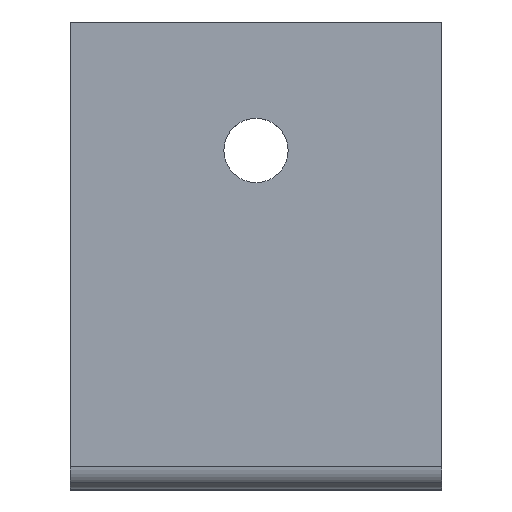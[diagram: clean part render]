
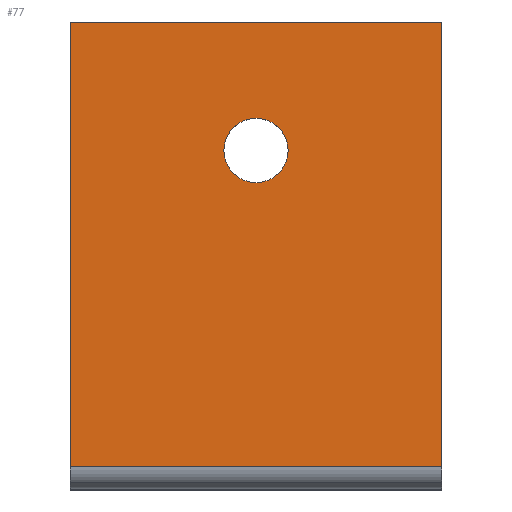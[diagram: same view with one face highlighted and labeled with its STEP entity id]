
A CAD part, top view. The second image highlights one B-rep face of the part: STEP entity #77.
In plain terms, the highlighted planar face has unit normal (0, 0, 1).
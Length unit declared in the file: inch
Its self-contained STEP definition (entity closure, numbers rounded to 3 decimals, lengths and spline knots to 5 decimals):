
#77=ADVANCED_FACE('',(#162,#163),#164,.T.);
#162=FACE_OUTER_BOUND('',#280,.T.);
#163=FACE_BOUND('',#281,.T.);
#164=PLANE('',#282);
#280=EDGE_LOOP('',(#451,#452,#453,#454));
#281=EDGE_LOOP('',(#455,#456,#457,#458));
#282=AXIS2_PLACEMENT_3D('',#459,#460,#461);
#451=ORIENTED_EDGE('',*,*,#593,.F.);
#452=ORIENTED_EDGE('',*,*,#639,.T.);
#453=ORIENTED_EDGE('',*,*,#640,.F.);
#454=ORIENTED_EDGE('',*,*,#641,.T.);
#455=ORIENTED_EDGE('',*,*,#642,.T.);
#456=ORIENTED_EDGE('',*,*,#643,.T.);
#457=ORIENTED_EDGE('',*,*,#644,.T.);
#458=ORIENTED_EDGE('',*,*,#626,.T.);
#459=CARTESIAN_POINT('',(0.,1.19526,1.87426));
#460=DIRECTION('',(0.0,0.0,1.0));
#461=DIRECTION('',(0.0,-1.0,0.0));
#593=EDGE_CURVE('',#705,#707,#708,.T.);
#626=EDGE_CURVE('',#761,#762,#763,.T.);
#639=EDGE_CURVE('',#705,#780,#781,.T.);
#640=EDGE_CURVE('',#782,#780,#783,.T.);
#641=EDGE_CURVE('',#782,#707,#784,.T.);
#642=EDGE_CURVE('',#762,#785,#786,.T.);
#643=EDGE_CURVE('',#785,#787,#788,.T.);
#644=EDGE_CURVE('',#787,#761,#789,.T.);
#705=VERTEX_POINT('',#867);
#707=VERTEX_POINT('',#869);
#708=LINE('',#870,#871);
#761=VERTEX_POINT('',#960);
#762=VERTEX_POINT('',#961);
#763=B_SPLINE_CURVE_WITH_KNOTS('',3,(#962,#963,#964,#965),.UNSPECIFIED.,.F.,.F.,(4,4),(-1.0,-0.0),.UNSPECIFIED.);
#780=VERTEX_POINT('',#991);
#781=LINE('',#992,#993);
#782=VERTEX_POINT('',#994);
#783=LINE('',#995,#996);
#784=LINE('',#997,#998);
#785=VERTEX_POINT('',#999);
#786=B_SPLINE_CURVE_WITH_KNOTS('',3,(#1000,#1001,#1002,#1003),.UNSPECIFIED.,.F.,.F.,(4,4),(-1.0,-0.0),.UNSPECIFIED.);
#787=VERTEX_POINT('',#1004);
#788=B_SPLINE_CURVE_WITH_KNOTS('',3,(#1005,#1006,#1007,#1008),.UNSPECIFIED.,.F.,.F.,(4,4),(-1.0,-0.0),.UNSPECIFIED.);
#789=B_SPLINE_CURVE_WITH_KNOTS('',3,(#1009,#1010,#1011,#1012),.UNSPECIFIED.,.F.,.F.,(4,4),(-1.0,-0.0),.UNSPECIFIED.);
#867=CARTESIAN_POINT('',(1.625,0.27198,1.87426));
#869=CARTESIAN_POINT('',(0.,0.27198,1.87426));
#870=CARTESIAN_POINT('',(0.,0.27198,1.87426));
#871=VECTOR('',#1074,1.0);
#960=CARTESIAN_POINT('',(0.8125,1.51525,1.87426));
#961=CARTESIAN_POINT('',(0.67187,1.65588,1.87426));
#962=CARTESIAN_POINT('',(0.8125,1.51525,1.87426));
#963=CARTESIAN_POINT('',(0.73484,1.51525,1.87426));
#964=CARTESIAN_POINT('',(0.67187,1.57821,1.87426));
#965=CARTESIAN_POINT('',(0.67187,1.65588,1.87426));
#991=CARTESIAN_POINT('',(1.625,2.21854,1.87426));
#992=CARTESIAN_POINT('',(1.625,2.21854,1.87426));
#993=VECTOR('',#1114,1.0);
#994=CARTESIAN_POINT('',(0.,2.21854,1.87426));
#995=CARTESIAN_POINT('',(0.,2.21854,1.87426));
#996=VECTOR('',#1115,1.0);
#997=CARTESIAN_POINT('',(0.,2.21854,1.87426));
#998=VECTOR('',#1116,1.0);
#999=CARTESIAN_POINT('',(0.8125,1.7965,1.87426));
#1000=CARTESIAN_POINT('',(0.67187,1.65588,1.87426));
#1001=CARTESIAN_POINT('',(0.67187,1.73354,1.87426));
#1002=CARTESIAN_POINT('',(0.73484,1.7965,1.87426));
#1003=CARTESIAN_POINT('',(0.8125,1.7965,1.87426));
#1004=CARTESIAN_POINT('',(0.95312,1.65588,1.87426));
#1005=CARTESIAN_POINT('',(0.8125,1.7965,1.87426));
#1006=CARTESIAN_POINT('',(0.89016,1.7965,1.87426));
#1007=CARTESIAN_POINT('',(0.95312,1.73354,1.87426));
#1008=CARTESIAN_POINT('',(0.95312,1.65588,1.87426));
#1009=CARTESIAN_POINT('',(0.95312,1.65588,1.87426));
#1010=CARTESIAN_POINT('',(0.95312,1.57821,1.87426));
#1011=CARTESIAN_POINT('',(0.89016,1.51525,1.87426));
#1012=CARTESIAN_POINT('',(0.8125,1.51525,1.87426));
#1074=DIRECTION('',(-1.0,-0.0,-0.0));
#1114=DIRECTION('',(0.0,1.0,0.0));
#1115=DIRECTION('',(1.0,0.0,0.0));
#1116=DIRECTION('',(0.0,-1.0,0.0));
